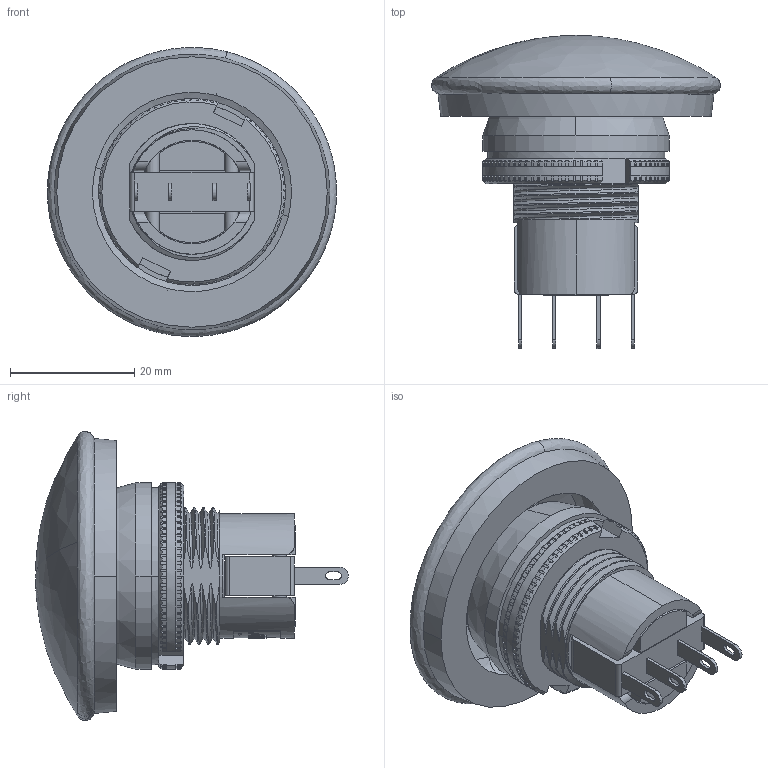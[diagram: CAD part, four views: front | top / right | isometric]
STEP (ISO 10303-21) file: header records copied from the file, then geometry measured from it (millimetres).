
FILE_DESCRIPTION (( 'STEP AP203' ), '1' );
FILE_NAME ('76-9440-439088X.STEP', '2017-01-18T14:11:19', ( 'Admin' ), ( 'Microsoft' ), 'SwSTEP 2.0', 'SolidWorks 2016', '' );
FILE_SCHEMA (( 'CONFIG_CONTROL_DESIGN' ));
Length unit declared in the file: millimetre
Products named in the file (2): 76-9440-439088X
Bounding box: 46.5 x 50.35 x 46.48 mm (x, y, z)
Surface area: 12196 mm2 (no closed solid volume)
Topology: 0 solids, 1 shells, 841 faces, 2499 edges, 1658 vertices
Faces by surface type: plane 408, cylinder 375, bspline 48, cone 10
Entity records: 31545 total; most frequent: CARTESIAN_POINT 9310, ORIENTED_EDGE 4986, DIRECTION 4354, EDGE_CURVE 2493, VERTEX_POINT 1658, AXIS2_PLACEMENT_3D 1567, VECTOR 1220, LINE 1220
